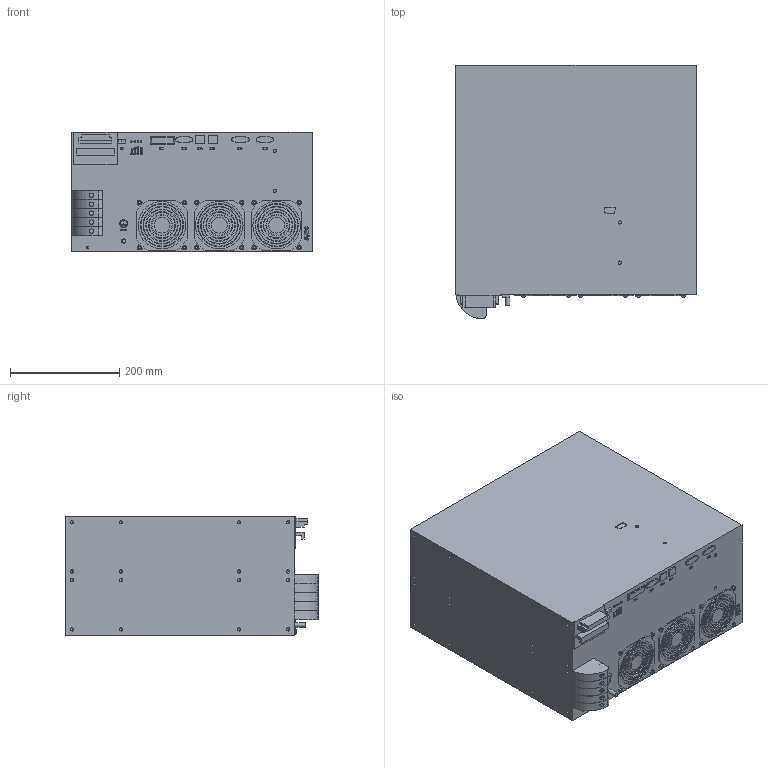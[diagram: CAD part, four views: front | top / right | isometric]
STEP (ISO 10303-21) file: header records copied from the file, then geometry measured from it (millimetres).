
FILE_DESCRIPTION(/* description */ ('raw material description'),/* implementation_level */ '2;1');
FILE_NAME(/* name */ 'C:\Users\Erika.Jenzer\OneDrive - Schaffner EMV AG\Desktop\AHF 200\FN3531_30_32_fn3540_41_42\CUSTOMER FN353X_FN354X.stp',/* time_stamp */ '2023-08-21T13:08:14+02:00',/* author */ ('erika.jenzer'),/* organization */ ('Schaffner EMV AG'),/* preprocessor_version */ 'ST-DEVELOPER v18.1',/* originating_system */ 'Autodesk Inventor 2020',/* authorisation */ '');
FILE_SCHEMA (('AUTOMOTIVE_DESIGN { 1 0 10303 214 3 1 1 }'));
Length unit declared in the file: millimetre
Products named in the file (1): CAD FILES_POWER MODULE
Bounding box: 440 x 463.5 x 219.5 mm (x, y, z)
Volume: 40771432.6 mm3; surface area: 800511.9 mm2
Topology: 1 solids, 1 shells, 1137 faces, 3012 edges, 2014 vertices
Faces by surface type: plane 702, bspline 237, cylinder 165, cone 33
Full cylindrical faces by diameter (mm): 2.8 x4, 6 x38, 8 x6, 13 x5, 29 x3, 37 x3, 39 x3, 47 x3, 49 x3, 57 x3, 59 x3, 67 x3, 69 x3, 77 x3, 79 x3, 87 x3
Entity records: 46047 total; most frequent: CARTESIAN_POINT 18243, ORIENTED_EDGE 5960, DIRECTION 4800, EDGE_CURVE 2980, LINE 2058, VECTOR 2058, VERTEX_POINT 2014, AXIS2_PLACEMENT_3D 1371
